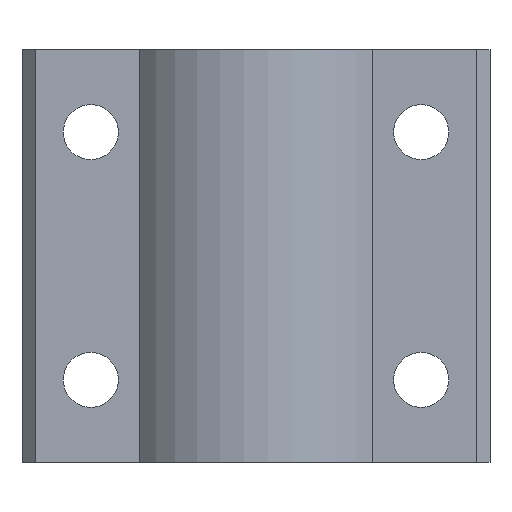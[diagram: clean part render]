
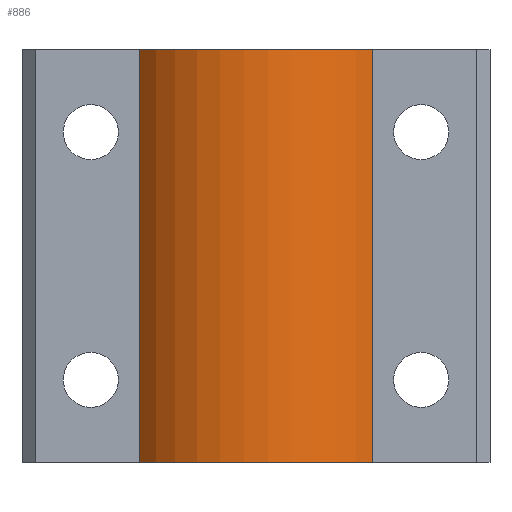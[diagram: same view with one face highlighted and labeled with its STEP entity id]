
A CAD part, front view. The second image highlights one B-rep face of the part: STEP entity #886.
In plain terms, the highlighted cylindrical face has radius 11 mm (diameter 22 mm), a partial arc.
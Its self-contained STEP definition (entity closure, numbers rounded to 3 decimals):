
#689=CARTESIAN_POINT('',(7.776,-2.802,-2.));
#690=VERTEX_POINT('',#689);
#697=CARTESIAN_POINT('',(-9.194,-2.802,-2.));
#698=VERTEX_POINT('',#697);
#699=CARTESIAN_POINT('',(-0.709,4.198,-2.));
#700=DIRECTION('',(0.0,0.0,1.));
#701=DIRECTION('',(0.771,0.636,0.0));
#702=AXIS2_PLACEMENT_3D('',#699,#700,#701);
#703=CIRCLE('',#702,11.0);
#704=EDGE_CURVE('',#698,#690,#703,.T.);
#835=CARTESIAN_POINT('',(7.776,-2.802,28.));
#836=VERTEX_POINT('',#835);
#843=CARTESIAN_POINT('',(7.776,-2.802,28.));
#844=DIRECTION('',(0.0,0.0,-1.0));
#845=VECTOR('',#844,30.);
#846=LINE('',#843,#845);
#847=EDGE_CURVE('',#836,#690,#846,.T.);
#862=CARTESIAN_POINT('',(-0.709,4.198,13.0));
#863=DIRECTION('',(0.0,0.0,1.0));
#864=DIRECTION('',(0.771,0.636,0.0));
#865=AXIS2_PLACEMENT_3D('',#862,#863,#864);
#866=CYLINDRICAL_SURFACE('',#865,11.);
#867=CARTESIAN_POINT('',(-9.194,-2.802,28.));
#868=VERTEX_POINT('',#867);
#869=CARTESIAN_POINT('',(-0.709,4.198,28.0));
#870=DIRECTION('',(0.0,0.0,-1.));
#871=DIRECTION('',(0.771,0.636,0.0));
#872=AXIS2_PLACEMENT_3D('',#869,#870,#871);
#873=CIRCLE('',#872,11.0);
#874=EDGE_CURVE('',#836,#868,#873,.T.);
#875=ORIENTED_EDGE('',*,*,#874,.T.);
#876=CARTESIAN_POINT('',(-9.194,-2.802,28.));
#877=DIRECTION('',(0.0,0.0,-1.0));
#878=VECTOR('',#877,30.);
#879=LINE('',#876,#878);
#880=EDGE_CURVE('',#868,#698,#879,.T.);
#881=ORIENTED_EDGE('',*,*,#880,.T.);
#882=ORIENTED_EDGE('',*,*,#704,.T.);
#883=ORIENTED_EDGE('',*,*,#847,.F.);
#884=EDGE_LOOP('',(#875,#881,#882,#883));
#885=FACE_OUTER_BOUND('',#884,.T.);
#886=ADVANCED_FACE('',(#885),#866,.T.);
